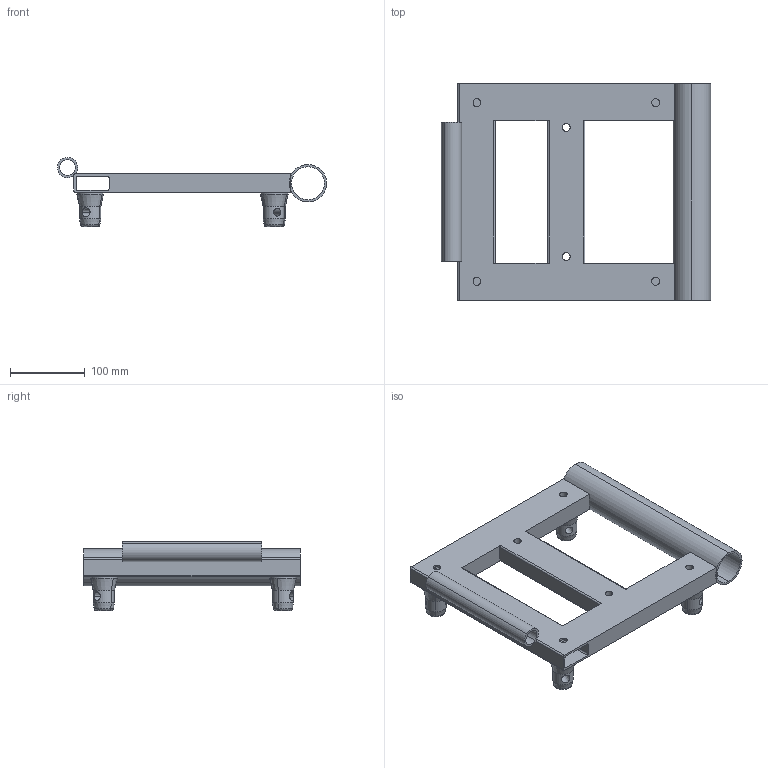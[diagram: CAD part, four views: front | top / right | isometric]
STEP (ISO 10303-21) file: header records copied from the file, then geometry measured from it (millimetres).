
FILE_DESCRIPTION (( 'STEP AP203' ), '1' );
FILE_NAME ('ANGV259-001-STEP.STEP', '2009-10-26T12:52:42', ( 'CEDIA' ), ( 'CEDIA INDUSTRIE' ), 'SwSTEP 2.0', 'SolidWorks 2009', '' );
FILE_SCHEMA (( 'CONFIG_CONTROL_DESIGN' ));
Length unit declared in the file: millimetre
Products named in the file (5): ANGV259-001; DEMImoyeu conique ASD; ANGV259-001-STEP; ANGV259-001_REPA; ANGV259-001_REPB
Assembly tree (7 placements, depth 3):
  ANGV259-001-STEP
    DEMImoyeu conique ASD  x4
    ANGV259-001
      ANGV259-001_REPB
      ANGV259-001_REPA
Bounding box: 359.99 x 290 x 92.51 mm (x, y, z)
Volume: 1228018.8 mm3; surface area: 318736 mm2
Topology: 7 solids, 7 shells, 114 faces, 268 edges, 168 vertices
Faces by surface type: cylinder 52, plane 30, cone 24, torus 8
Entity records: 3040 total; most frequent: CARTESIAN_POINT 552, DIRECTION 432, ORIENTED_EDGE 368, EDGE_CURVE 184, AXIS2_PLACEMENT_3D 169, VERTEX_POINT 120, EDGE_LOOP 98, VECTOR 94
